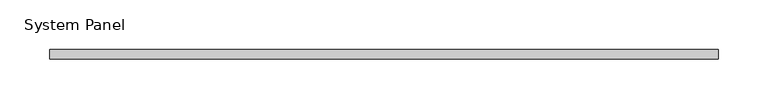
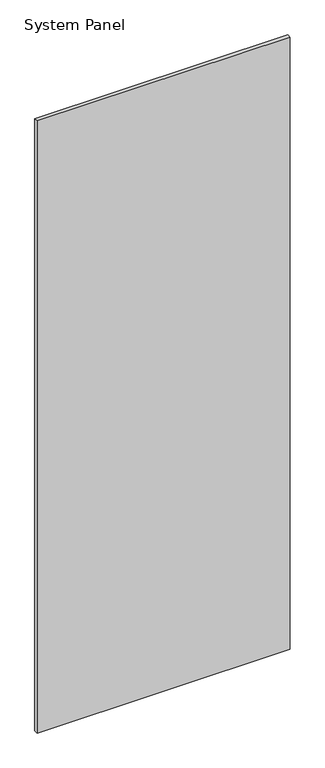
"""IFC4 building model written with IfcOpenShell, lengths in millimetres: plate geometry, System Panel : стекло_смещение_0."""

from ifc_helpers import new_model, si_unit, origin, origin_with_axes, place, context, project, spatial, polyline, outline, extrude, source, transform, mapped, element, save


def system_panel_86708cb3(model_context):
    return source(origin(), model_context, "Body", "SweptSolid", [
        extrude(outline(polyline([(337.5, -5.0), (-337.5, -5.0), (-337.5, 5.0), (337.5, 5.0), (337.5, -5.0)])), origin_with_axes(), (0.0, 0.0, 1.0), 1725.0),
    ])


if __name__ == "__main__":
    model = new_model("IFC4")
    model_context = context("Model", 3, world=origin())
    ifc_project = project(units=[si_unit("LENGTHUNIT", "METRE", prefix="MILLI")], contexts=[model_context])
    site = spatial("IfcSite", under=ifc_project)
    building = spatial("IfcBuilding", under=site)
    placement = place(None, origin())
    system_panel_shape = system_panel_86708cb3(model_context)
    element("IfcPlate", 1, ObjectType="System Panel : стекло_смещение_0", at=placement, inside=building, context=model_context, shape_type="MappedRepresentation", body=[
        mapped(system_panel_shape, transform((0.0, 0.0, 0.0), x_axis=(1.0, 0.0, 0.0), y_axis=(0.0, 1.0, 0.0), z_axis=(0.0, 0.0, 1.0))),
    ])
    save(model, "model.ifc")
